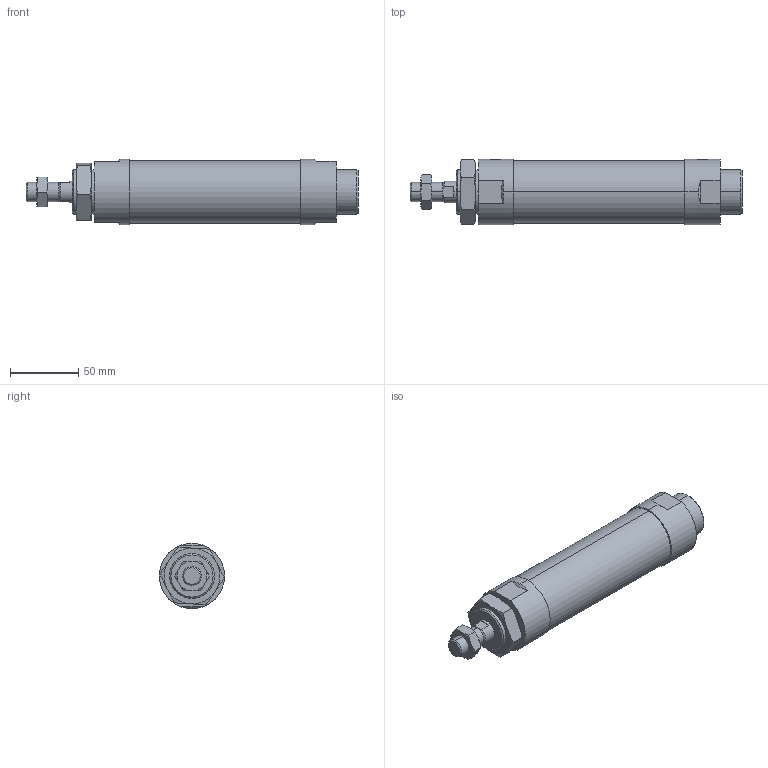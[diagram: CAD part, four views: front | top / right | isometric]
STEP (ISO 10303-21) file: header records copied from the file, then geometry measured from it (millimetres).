
FILE_DESCRIPTION (( 'STEP AP203' ), '1' );
FILE_NAME ('J#2-40-75-N.STEP', '2016-03-08T07:56:31', ( '' ), ( '' ), 'SwSTEP 2.0', 'SolidWorks 2014', '' );
FILE_SCHEMA (( 'CONFIG_CONTROL_DESIGN' ));
Length unit declared in the file: millimetre
Products named in the file (4): J#2-40-75; J#2-40-75-N
Assembly tree (3 placements, depth 2):
  J#2-40-75-N
    J#2-40-75
    (unnamed)
    (unnamed)
Bounding box: 244 x 48 x 48 mm (x, y, z)
Volume: 342461.9 mm3; surface area: 41274.7 mm2
Topology: 3 solids, 3 shells, 94 faces, 210 edges, 125 vertices
Faces by surface type: plane 33, torus 24, cylinder 22, cone 15
Entity records: 3435 total; most frequent: CARTESIAN_POINT 1022, DIRECTION 421, ORIENTED_EDGE 412, EDGE_CURVE 206, AXIS2_PLACEMENT_3D 178, VERTEX_POINT 125, EDGE_LOOP 105, FACE_OUTER_BOUND 94
